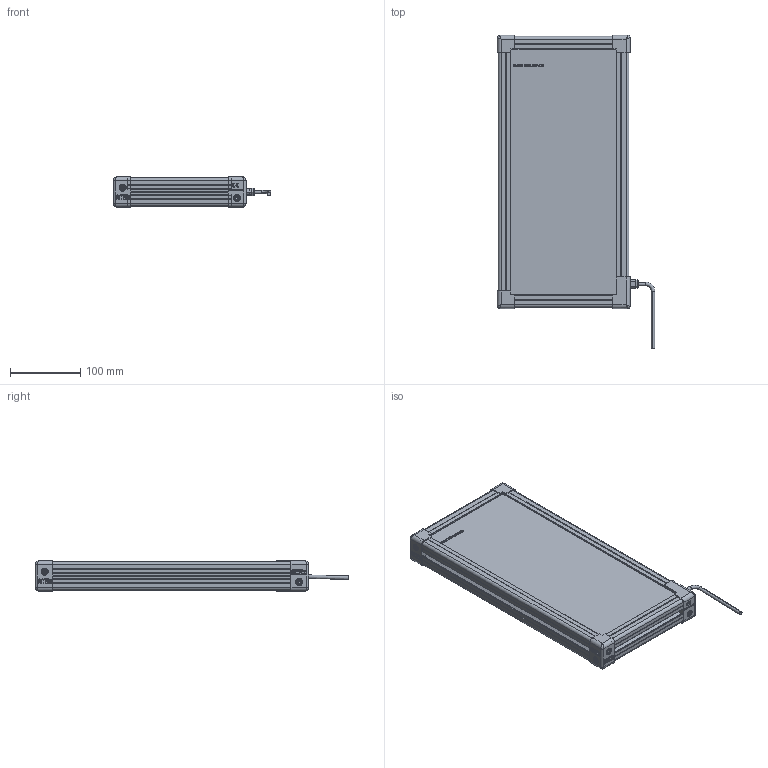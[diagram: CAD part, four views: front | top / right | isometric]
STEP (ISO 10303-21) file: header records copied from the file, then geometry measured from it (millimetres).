
FILE_DESCRIPTION (( 'STEP AP214' ), '1' );
FILE_NAME ('EFFI-BL-150-350-ZZZ 1x M12.STEP', '2021-06-18T09:25:50', ( '' ), ( '' ), 'SwSTEP 2.0', 'SolidWorks 2021', '' );
FILE_SCHEMA (( 'AUTOMOTIVE_DESIGN' ));
Length unit declared in the file: millimetre
Products named in the file (9): EFFI-BL-150-350-ZZZ 1x M12; petite joue + vis; cordon_Avec cable; petite joue; profile X_PERCE; profile Y_PERCE; grande joue; Pièce13^EFFI-BL-XXX-YYY-ZZZ -1M12; 000629
Assembly tree (15 placements, depth 3):
  EFFI-BL-150-350-ZZZ 1x M12
    profile X_PERCE  x2
    profile Y_PERCE  x2
    Pièce13^EFFI-BL-XXX-YYY-ZZZ -1M12
    petite joue + vis  x3
      petite joue
      000629
    000629  x2
    grande joue
    cordon_Avec cable
Bounding box: 224.15 x 446.14 x 43.2 mm (x, y, z)
Volume: 2532630.2 mm3; surface area: 327895.7 mm2
Topology: 17 solids, 23 shells, 3485 faces, 9341 edges, 6182 vertices
Faces by surface type: plane 2315, cylinder 592, bspline 552, cone 16, torus 10
Entity records: 67108 total; most frequent: CARTESIAN_POINT 27533, ORIENTED_EDGE 8416, DIRECTION 6619, EDGE_CURVE 4212, LINE 3319, VECTOR 3319, VERTEX_POINT 2799, EDGE_LOOP 1757
